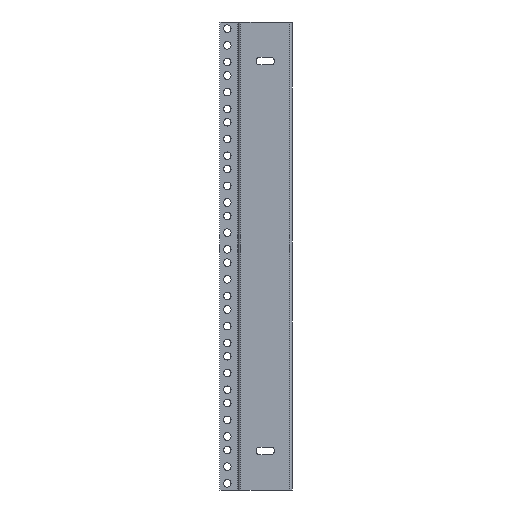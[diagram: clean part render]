
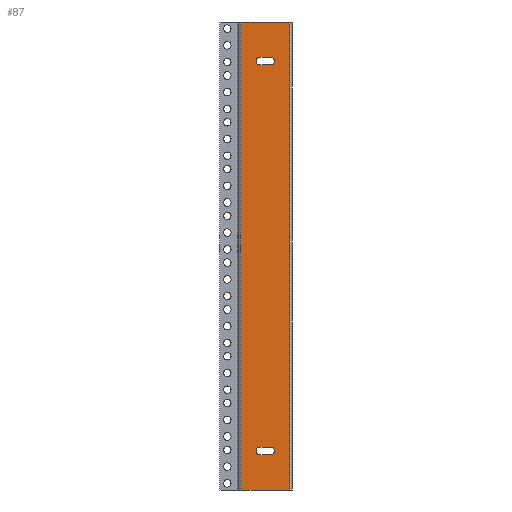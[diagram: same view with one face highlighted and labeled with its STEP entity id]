
A CAD part, front view. The second image highlights one B-rep face of the part: STEP entity #87.
In plain terms, the highlighted planar face has unit normal (0, -1, 0).
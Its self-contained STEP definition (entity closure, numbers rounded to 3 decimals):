
#87 = ADVANCED_FACE( '', ( #307, #308, #309 ), #310, .T. );
#307 = FACE_BOUND( '', #663, .T. );
#308 = FACE_BOUND( '', #664, .T. );
#309 = FACE_OUTER_BOUND( '', #665, .T. );
#310 = PLANE( '', #666 );
#663 = EDGE_LOOP( '', ( #1164, #1165, #1166, #1167 ) );
#664 = EDGE_LOOP( '', ( #1168, #1169, #1170, #1171 ) );
#665 = EDGE_LOOP( '', ( #1172, #1173, #1174, #1175 ) );
#666 = AXIS2_PLACEMENT_3D( '', #1176, #1177, #1178 );
#1164 = ORIENTED_EDGE( '', *, *, #1604, .T. );
#1165 = ORIENTED_EDGE( '', *, *, #1605, .T. );
#1166 = ORIENTED_EDGE( '', *, *, #1606, .T. );
#1167 = ORIENTED_EDGE( '', *, *, #1607, .T. );
#1168 = ORIENTED_EDGE( '', *, *, #1595, .F. );
#1169 = ORIENTED_EDGE( '', *, *, #1608, .F. );
#1170 = ORIENTED_EDGE( '', *, *, #1588, .F. );
#1171 = ORIENTED_EDGE( '', *, *, #1592, .F. );
#1172 = ORIENTED_EDGE( '', *, *, #1537, .T. );
#1173 = ORIENTED_EDGE( '', *, *, #1609, .T. );
#1174 = ORIENTED_EDGE( '', *, *, #1547, .T. );
#1175 = ORIENTED_EDGE( '', *, *, #1610, .T. );
#1176 = CARTESIAN_POINT( '', ( -25.4, 0., -222.25 ) );
#1177 = DIRECTION( '', ( 0., -1., 0. ) );
#1178 = DIRECTION( '', ( 0., 0., -1. ) );
#1537 = EDGE_CURVE( '', #1778, #1776, #1779, .T. );
#1547 = EDGE_CURVE( '', #1798, #1796, #1799, .T. );
#1588 = EDGE_CURVE( '', #1872, #1874, #1875, .T. );
#1592 = EDGE_CURVE( '', #1880, #1872, #1882, .T. );
#1595 = EDGE_CURVE( '', #1885, #1880, #1887, .T. );
#1604 = EDGE_CURVE( '', #1900, #1901, #1902, .T. );
#1605 = EDGE_CURVE( '', #1901, #1903, #1904, .T. );
#1606 = EDGE_CURVE( '', #1903, #1905, #1906, .T. );
#1607 = EDGE_CURVE( '', #1905, #1900, #1907, .T. );
#1608 = EDGE_CURVE( '', #1874, #1885, #1908, .T. );
#1609 = EDGE_CURVE( '', #1776, #1798, #1909, .T. );
#1610 = EDGE_CURVE( '', #1796, #1778, #1910, .T. );
#1776 = VERTEX_POINT( '', #2150 );
#1778 = VERTEX_POINT( '', #2152 );
#1779 = LINE( '', #2153, #2154 );
#1796 = VERTEX_POINT( '', #2176 );
#1798 = VERTEX_POINT( '', #2178 );
#1799 = LINE( '', #2179, #2180 );
#1872 = VERTEX_POINT( '', #2260 );
#1874 = VERTEX_POINT( '', #2263 );
#1875 = CIRCLE( '', #2264, 3.569 );
#1880 = VERTEX_POINT( '', #2270 );
#1882 = LINE( '', #2273, #2274 );
#1885 = VERTEX_POINT( '', #2278 );
#1887 = CIRCLE( '', #2281, 3.569 );
#1900 = VERTEX_POINT( '', #2299 );
#1901 = VERTEX_POINT( '', #2300 );
#1902 = CIRCLE( '', #2301, 3.569 );
#1903 = VERTEX_POINT( '', #2302 );
#1904 = LINE( '', #2303, #2304 );
#1905 = VERTEX_POINT( '', #2305 );
#1906 = CIRCLE( '', #2306, 3.569 );
#1907 = LINE( '', #2307, #2308 );
#1908 = LINE( '', #2309, #2310 );
#1909 = LINE( '', #2311, #2312 );
#1910 = LINE( '', #2313, #2314 );
#2150 = CARTESIAN_POINT( '', ( 23.216, 0., -222.25 ) );
#2152 = CARTESIAN_POINT( '', ( -23.216, 0., -222.25 ) );
#2153 = CARTESIAN_POINT( '', ( -25.4, 0., -222.25 ) );
#2154 = VECTOR( '', #2573, 1000. );
#2176 = CARTESIAN_POINT( '', ( -23.216, 0., 222.25 ) );
#2178 = CARTESIAN_POINT( '', ( 23.216, 0., 222.25 ) );
#2179 = CARTESIAN_POINT( '', ( 25.4, 0., 222.25 ) );
#2180 = VECTOR( '', #2591, 1000. );
#2260 = CARTESIAN_POINT( '', ( -5.169, 0., 188.646 ) );
#2263 = CARTESIAN_POINT( '', ( -5.169, 0., 181.508 ) );
#2264 = AXIS2_PLACEMENT_3D( '', #2696, #2697, #2698 );
#2270 = CARTESIAN_POINT( '', ( 5.169, 0., 188.646 ) );
#2273 = CARTESIAN_POINT( '', ( -5.169, 0., 188.646 ) );
#2274 = VECTOR( '', #2704, 1000. );
#2278 = CARTESIAN_POINT( '', ( 5.169, 0., 181.508 ) );
#2281 = AXIS2_PLACEMENT_3D( '', #2707, #2708, #2709 );
#2299 = CARTESIAN_POINT( '', ( 5.169, 0., -181.508 ) );
#2300 = CARTESIAN_POINT( '', ( 5.169, 0., -188.646 ) );
#2301 = AXIS2_PLACEMENT_3D( '', #2724, #2725, #2726 );
#2302 = CARTESIAN_POINT( '', ( -5.169, 0., -188.646 ) );
#2303 = CARTESIAN_POINT( '', ( -5.169, 0., -188.646 ) );
#2304 = VECTOR( '', #2727, 1000. );
#2305 = CARTESIAN_POINT( '', ( -5.169, 0., -181.508 ) );
#2306 = AXIS2_PLACEMENT_3D( '', #2728, #2729, #2730 );
#2307 = CARTESIAN_POINT( '', ( -5.169, 0., -181.508 ) );
#2308 = VECTOR( '', #2731, 1000. );
#2309 = CARTESIAN_POINT( '', ( -5.169, 0., 181.508 ) );
#2310 = VECTOR( '', #2732, 1000. );
#2311 = CARTESIAN_POINT( '', ( 23.216, 0., -222.25 ) );
#2312 = VECTOR( '', #2733, 1000. );
#2313 = CARTESIAN_POINT( '', ( -23.216, 0., 222.25 ) );
#2314 = VECTOR( '', #2734, 1000. );
#2573 = DIRECTION( '', ( 1., 0., 0. ) );
#2591 = DIRECTION( '', ( -1., 0., 0. ) );
#2696 = CARTESIAN_POINT( '', ( -5.169, 0., 185.077 ) );
#2697 = DIRECTION( '', ( 0., -1., 0. ) );
#2698 = DIRECTION( '', ( 1., 0., 0. ) );
#2704 = DIRECTION( '', ( -1., 0., 0. ) );
#2707 = CARTESIAN_POINT( '', ( 5.169, 0., 185.077 ) );
#2708 = DIRECTION( '', ( 0., -1., 0. ) );
#2709 = DIRECTION( '', ( -1., 0., 0. ) );
#2724 = CARTESIAN_POINT( '', ( 5.169, 0., -185.077 ) );
#2725 = DIRECTION( '', ( 0., 1., 0. ) );
#2726 = DIRECTION( '', ( -1., 0., 0. ) );
#2727 = DIRECTION( '', ( -1., 0., 0. ) );
#2728 = CARTESIAN_POINT( '', ( -5.169, 0., -185.077 ) );
#2729 = DIRECTION( '', ( 0., 1., 0. ) );
#2730 = DIRECTION( '', ( 1., 0., 0. ) );
#2731 = DIRECTION( '', ( 1., 0., 0. ) );
#2732 = DIRECTION( '', ( 1., 0., 0. ) );
#2733 = DIRECTION( '', ( 0., 0., 1. ) );
#2734 = DIRECTION( '', ( 0., 0., -1. ) );
